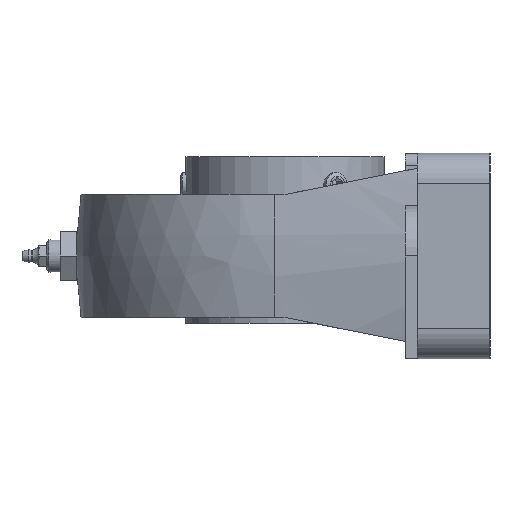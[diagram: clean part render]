
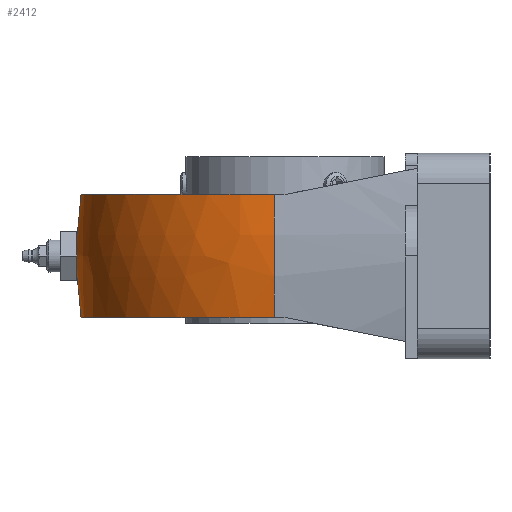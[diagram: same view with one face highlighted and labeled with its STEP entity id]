
A CAD part, left-side view. The second image highlights one B-rep face of the part: STEP entity #2412.
In plain terms, the highlighted free-form (B-spline) face has degree [2, 2] with [3, 5] control points.
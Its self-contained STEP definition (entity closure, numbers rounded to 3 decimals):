
#153=CARTESIAN_POINT('',(0.,103.283,6.918));
#154=VERTEX_POINT('',#153);
#155=CARTESIAN_POINT('',(0.,103.283,6.918));
#156=CARTESIAN_POINT('',(-0.049,103.283,6.918));
#157=CARTESIAN_POINT('',(-0.098,103.283,6.917));
#158=CARTESIAN_POINT('',(-0.235,103.283,6.914));
#159=CARTESIAN_POINT('',(-0.322,103.283,6.911));
#160=CARTESIAN_POINT('',(-0.583,103.283,6.895));
#161=CARTESIAN_POINT('',(-0.754,103.282,6.878));
#162=CARTESIAN_POINT('',(-1.807,103.277,6.736));
#163=CARTESIAN_POINT('',(-2.657,103.268,6.448));
#164=CARTESIAN_POINT('',(-4.137,103.243,5.603));
#165=CARTESIAN_POINT('',(-4.768,103.229,5.077));
#166=CARTESIAN_POINT('',(-5.875,103.201,3.762));
#167=CARTESIAN_POINT('',(-6.316,103.188,2.963));
#168=CARTESIAN_POINT('',(-6.867,103.17,1.235));
#169=CARTESIAN_POINT('',(-6.969,103.167,0.323));
#170=CARTESIAN_POINT('',(-6.822,103.172,-1.425));
#171=CARTESIAN_POINT('',(-6.597,103.179,-2.247));
#172=CARTESIAN_POINT('',(-5.888,103.2,-3.714));
#173=CARTESIAN_POINT('',(-5.43,103.213,-4.357));
#174=CARTESIAN_POINT('',(-4.372,103.238,-5.408));
#175=CARTESIAN_POINT('',(-3.796,103.25,-5.826));
#176=CARTESIAN_POINT('',(-2.689,103.266,-6.396));
#177=CARTESIAN_POINT('',(-2.184,103.272,-6.586));
#178=CARTESIAN_POINT('',(-1.37,103.279,-6.787));
#179=CARTESIAN_POINT('',(-1.075,103.281,-6.84));
#180=CARTESIAN_POINT('',(-0.633,103.282,-6.89));
#181=CARTESIAN_POINT('',(-0.488,103.283,-6.902));
#182=CARTESIAN_POINT('',(-0.262,103.283,-6.913));
#183=CARTESIAN_POINT('',(-0.181,103.283,-6.916));
#184=CARTESIAN_POINT('',(-0.032,103.283,-6.918));
#185=CARTESIAN_POINT('',(0.036,103.283,-6.918));
#186=CARTESIAN_POINT('',(0.186,103.283,-6.915));
#187=CARTESIAN_POINT('',(0.267,103.283,-6.913));
#188=CARTESIAN_POINT('',(0.496,103.283,-6.901));
#189=CARTESIAN_POINT('',(0.643,103.282,-6.889));
#190=CARTESIAN_POINT('',(1.362,103.28,-6.806));
#191=CARTESIAN_POINT('',(1.925,103.275,-6.669));
#192=CARTESIAN_POINT('',(3.158,103.26,-6.199));
#193=CARTESIAN_POINT('',(3.805,103.249,-5.825));
#194=CARTESIAN_POINT('',(5.063,103.223,-4.796));
#195=CARTESIAN_POINT('',(5.632,103.208,-4.112));
#196=CARTESIAN_POINT('',(6.499,103.182,-2.54));
#197=CARTESIAN_POINT('',(6.777,103.173,-1.661));
#198=CARTESIAN_POINT('',(6.972,103.167,0.118));
#199=CARTESIAN_POINT('',(6.901,103.169,0.999));
#200=CARTESIAN_POINT('',(6.45,103.183,2.63));
#201=CARTESIAN_POINT('',(6.095,103.195,3.371));
#202=CARTESIAN_POINT('',(5.183,103.219,4.642));
#203=CARTESIAN_POINT('',(4.651,103.232,5.175));
#204=CARTESIAN_POINT('',(3.511,103.254,5.996));
#205=CARTESIAN_POINT('',(2.927,103.264,6.302));
#206=CARTESIAN_POINT('',(1.973,103.274,6.64));
#207=CARTESIAN_POINT('',(1.629,103.277,6.732));
#208=CARTESIAN_POINT('',(1.028,103.281,6.845));
#209=CARTESIAN_POINT('',(0.774,103.282,6.879));
#210=CARTESIAN_POINT('',(0.418,103.283,6.906));
#211=CARTESIAN_POINT('',(0.316,103.283,6.911));
#212=CARTESIAN_POINT('',(0.143,103.283,6.916));
#213=CARTESIAN_POINT('',(0.071,103.283,6.918));
#214=CARTESIAN_POINT('',(0.,103.283,6.918));
#215=B_SPLINE_CURVE_WITH_KNOTS('',3,(#155,#156,#157,#158,#159,#160,#161,#162,#163,#164,#165,#166,#167,#168,#169,#170,#171,#172,#173,#174,#175,#176,#177,#178,#179,#180,#181,#182,#183,#184,#185,#186,#187,#188,#189,#190,#191,#192,#193,#194,#195,#196,#197,#198,#199,#200,#201,#202,#203,#204,#205,#206,#207,#208,#209,#210,#211,#212,#213,#214),.UNSPECIFIED.,.T.,.U.,(4,2,2,2,2,2,2,2,2,2,2,2,2,2,2,2,2,2,2,2,2,2,2,2,2,2,2,2,2,4),(-4.356,-4.342,-4.315,-4.264,-3.997,-3.752,-3.481,-3.208,-2.955,-2.719,-2.507,-2.346,-2.256,-2.212,-2.188,-2.168,-2.143,-2.099,-1.926,-1.703,-1.438,-1.164,-0.902,-0.657,-0.432,-0.235,-0.129,-0.052,-0.021,0.0),.UNSPECIFIED.);
#216=EDGE_CURVE('',#154,#154,#215,.T.);
#2165=CARTESIAN_POINT('',(-100.978,5.321,30.5));
#2166=VERTEX_POINT('',#2165);
#2173=CARTESIAN_POINT('',(-100.978,5.321,-30.5));
#2174=VERTEX_POINT('',#2173);
#2175=CARTESIAN_POINT('',(101.459,-5.346,0.));
#2176=DIRECTION('',(-0.053,-0.999,0.0));
#2177=DIRECTION('',(-0.976,0.051,-0.212));
#2178=AXIS2_PLACEMENT_3D('',#2175,#2176,#2177);
#2179=CIRCLE('',#2178,205.0);
#2180=EDGE_CURVE('',#2166,#2174,#2179,.T.);
#2233=CARTESIAN_POINT('',(100.978,5.321,-30.5));
#2234=VERTEX_POINT('',#2233);
#2241=CARTESIAN_POINT('',(100.978,5.321,30.5));
#2242=VERTEX_POINT('',#2241);
#2243=CARTESIAN_POINT('',(-101.459,-5.346,0.));
#2244=DIRECTION('',(-0.053,0.999,0.));
#2245=DIRECTION('',(0.976,0.051,-0.212));
#2246=AXIS2_PLACEMENT_3D('',#2243,#2244,#2245);
#2247=CIRCLE('',#2246,205.0);
#2248=EDGE_CURVE('',#2242,#2234,#2247,.T.);
#2317=CARTESIAN_POINT('',(0.0,0.,-30.5));
#2318=DIRECTION('',(0.0,0.0,1.0));
#2319=DIRECTION('',(-1.0,0.0,0.0));
#2320=AXIS2_PLACEMENT_3D('',#2317,#2318,#2319);
#2321=CIRCLE('',#2320,101.118);
#2322=EDGE_CURVE('',#2234,#2174,#2321,.T.);
#2355=CARTESIAN_POINT('',(0.0,0.,30.5));
#2356=DIRECTION('',(0.0,0.0,-1.0));
#2357=DIRECTION('',(-1.0,0.0,0.0));
#2358=AXIS2_PLACEMENT_3D('',#2355,#2356,#2357);
#2359=CIRCLE('',#2358,101.118);
#2360=EDGE_CURVE('',#2166,#2242,#2359,.T.);
#2380=CARTESIAN_POINT('',(100.984,5.204,30.5));
#2381=CARTESIAN_POINT('',(105.567,5.44,0.));
#2382=CARTESIAN_POINT('',(100.984,5.204,-30.5));
#2383=CARTESIAN_POINT('',(96.042,101.118,30.5));
#2384=CARTESIAN_POINT('',(100.401,105.707,0.));
#2385=CARTESIAN_POINT('',(96.042,101.118,-30.5));
#2386=CARTESIAN_POINT('',(0.,101.118,30.5));
#2387=CARTESIAN_POINT('',(0.,105.707,0.));
#2388=CARTESIAN_POINT('',(0.,101.118,-30.5));
#2389=CARTESIAN_POINT('',(-96.042,101.118,30.5));
#2390=CARTESIAN_POINT('',(-100.401,105.707,0.));
#2391=CARTESIAN_POINT('',(-96.042,101.118,-30.5));
#2392=CARTESIAN_POINT('',(-100.984,5.204,30.5));
#2393=CARTESIAN_POINT('',(-105.567,5.44,0.));
#2394=CARTESIAN_POINT('',(-100.984,5.204,-30.5));
#2402=(BOUNDED_SURFACE()B_SPLINE_SURFACE(2,2,((#2380,#2383,#2386,#2389,#2392),(#2381,#2384,#2387,#2390,#2393),(#2382,#2385,#2388,#2391,#2394)),.UNSPECIFIED.,.F.,.F.,.U.)B_SPLINE_SURFACE_WITH_KNOTS((3,3),(3,2,3),(-0.149,0.149),(0.0,1.519,3.039),.UNSPECIFIED.)GEOMETRIC_REPRESENTATION_ITEM()RATIONAL_B_SPLINE_SURFACE(((1.0,0.725,1.0,0.725,1.0),(0.989,0.717,0.989,0.717,0.989),(1.0,0.725,1.0,0.725,1.0)))REPRESENTATION_ITEM('')SURFACE());
#2403=ORIENTED_EDGE('',*,*,#216,.T.);
#2404=EDGE_LOOP('',(#2403));
#2405=FACE_OUTER_BOUND('',#2404,.T.);
#2406=ORIENTED_EDGE('',*,*,#2322,.T.);
#2407=ORIENTED_EDGE('',*,*,#2180,.F.);
#2408=ORIENTED_EDGE('',*,*,#2360,.T.);
#2409=ORIENTED_EDGE('',*,*,#2248,.T.);
#2410=EDGE_LOOP('',(#2406,#2407,#2408,#2409));
#2411=FACE_BOUND('',#2410,.T.);
#2412=ADVANCED_FACE('',(#2405,#2411),#2402,.T.);
